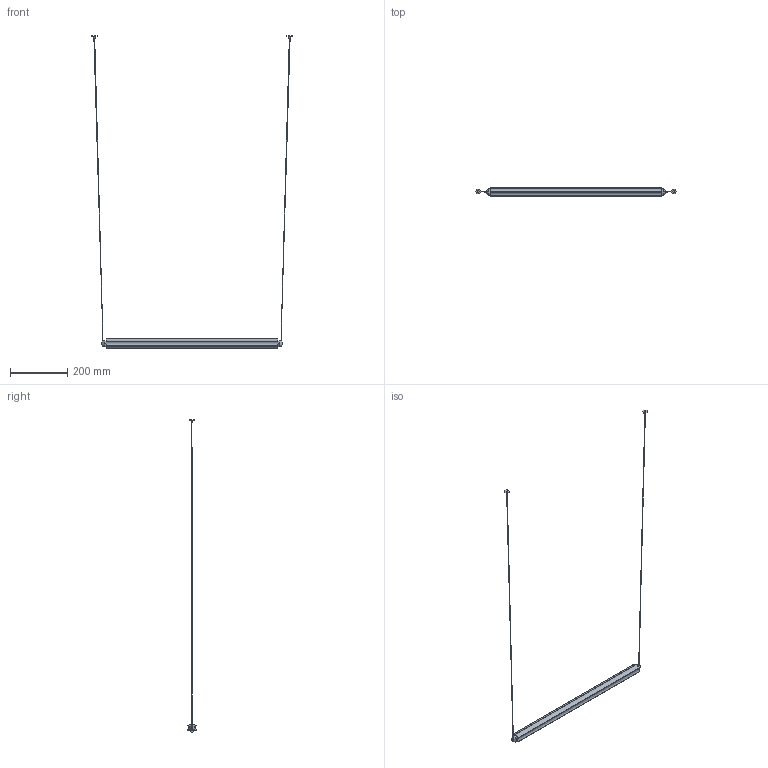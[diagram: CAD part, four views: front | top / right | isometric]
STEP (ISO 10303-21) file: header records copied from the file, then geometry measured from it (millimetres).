
FILE_DESCRIPTION(/* description */ (''),/* implementation_level */ '2;1');
FILE_NAME(/* name */ '64612-131_3d',/* time_stamp */ '2026-05-25T12:56:43+02:00',/* author */ (''),/* organization */ (''),/* preprocessor_version */ 'ST-DEVELOPER v19.2',/* originating_system */ 'Rhino 8.30',/* authorisation */ '');
FILE_SCHEMA (('CONFIG_CONTROL_DESIGN'));
Length unit declared in the file: millimetre
Products named in the file (1): Document
Bounding box: 703.38 x 29.26 x 1095.46 mm (x, y, z)
Volume: 227143.5 mm3; surface area: 121412.6 mm2
Topology: 5 solids, 9 shells, 103 faces, 296 edges, 192 vertices
Faces by surface type: cylinder 57, plane 38, bspline 8
Entity records: 8448 total; most frequent: CARTESIAN_POINT 5978, ORIENTED_EDGE 562, DIRECTION 320, EDGE_CURVE 287, AXIS2_PLACEMENT_3D 207, VERTEX_POINT 186, B_SPLINE_CURVE_WITH_KNOTS 165, EDGE_LOOP 111
